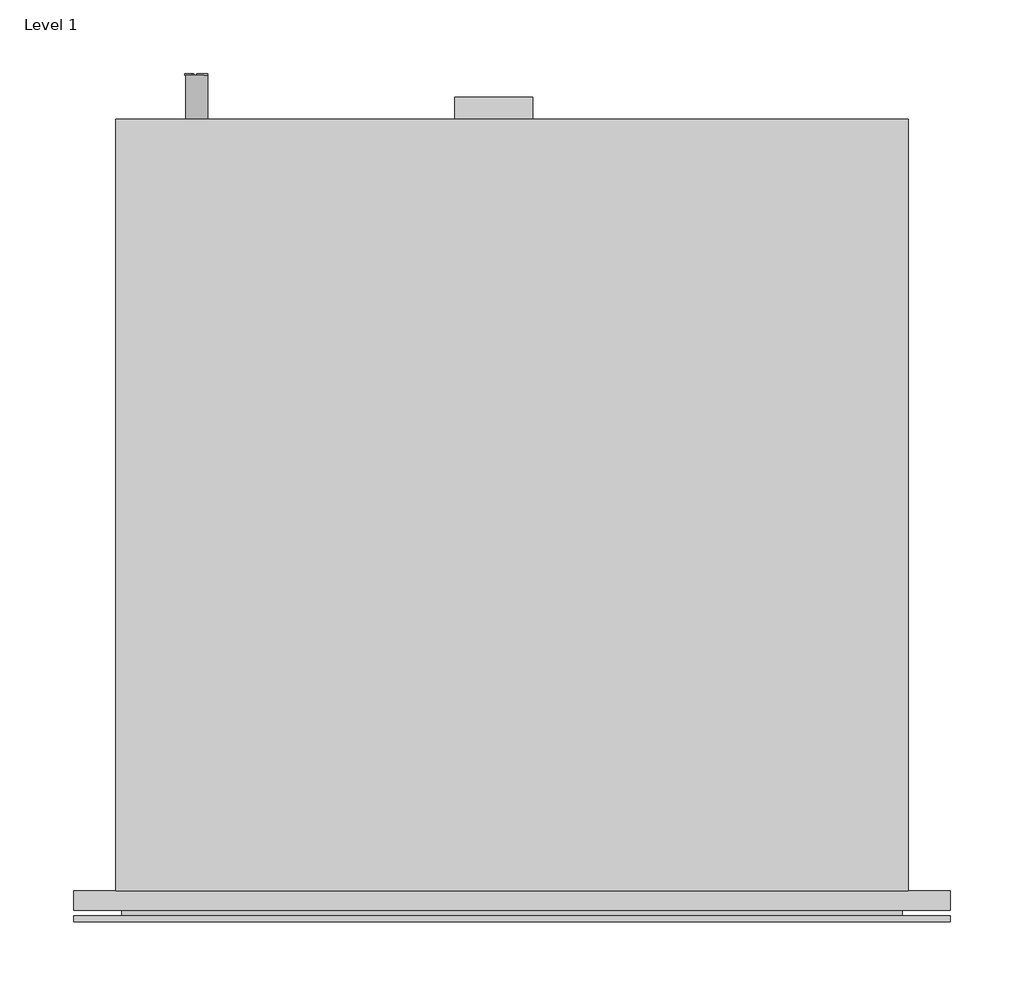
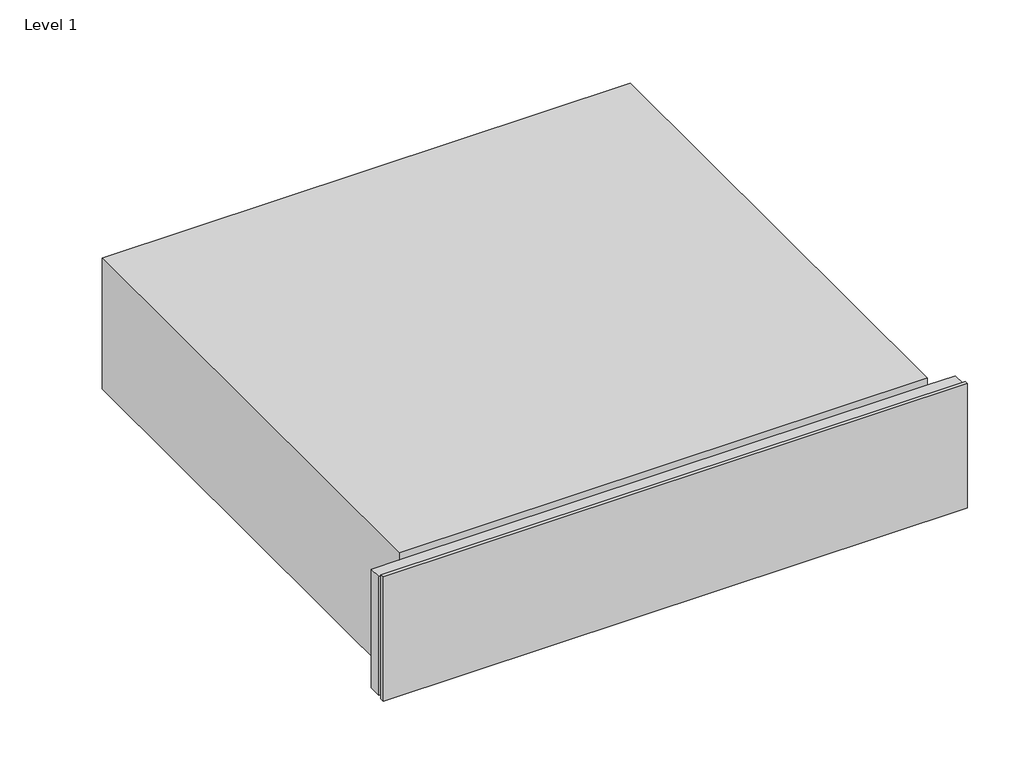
# One storey: 1 proxy.
"""IFC4 building model written with IfcOpenShell, lengths in millimetres."""

import ifcopenshell
import ifcopenshell.guid

model = None  # the IFC model being written
_history = None  # IfcOwnerHistory: only IFC2X3 demands one
_inside = {}  # id of a spatial element -> (the spatial element, [elements in it])
_under = {}  # id of a project, library or spatial element -> (it, [spatial elements below it])
_declared = {}  # id of a project -> (the project, [libraries it declares])
_typed = {}  # id of a type object -> (the type object, [elements of that type])
_made_of = {}  # id of a material, layer set ... -> (it, [elements and type objects made of it])


def new_model(schema):
    """Start an empty IFC model of exactly this schema.

    Asked for "IFC4X3", IfcOpenShell would pick the latest addendum, in which some entities
    have other attributes; the version numbers below select the first issue.
    IFC2X3 requires an IfcOwnerHistory on every rooted entity: one is made here for all.
    """
    global model, _history
    if schema == "IFC4X3":
        model = ifcopenshell.file(schema_version=(4, 3, 0, 0))
    else:
        model = ifcopenshell.file(schema=schema)
    _inside.clear()
    _under.clear()
    _declared.clear()
    _typed.clear()
    _made_of.clear()
    _history = None
    if model.schema == "IFC2X3":
        org = make("IfcOrganization", Name="unknown")
        user = make(
            "IfcPersonAndOrganization",
            ThePerson=make("IfcPerson", FamilyName="unknown"),
            TheOrganization=org,
        )
        app = make(
            "IfcApplication",
            ApplicationDeveloper=org,
            Version="unknown",
            ApplicationFullName="unknown",
            ApplicationIdentifier="unknown",
        )
        _history = make(
            "IfcOwnerHistory",
            OwningUser=user,
            OwningApplication=app,
            ChangeAction="ADDED",
            CreationDate=0,
        )
    return model


def make(cls, **values):
    """One entity of the class cls with the attributes given. An attribute that is None is left unset."""
    return model.create_entity(
        cls, **{name: value for name, value in values.items() if value is not None}
    )


def rooted(cls, **values):
    """An entity with a GlobalId (a new one), such as an element, a storey or a relation."""
    return make(cls, GlobalId=ifcopenshell.guid.new(), OwnerHistory=_history, **values)


def si_unit(unit_type, name, prefix=None):
    """IfcSIUnit, for example si_unit("LENGTHUNIT", "METRE", prefix="MILLI")."""
    return make("IfcSIUnit", UnitType=unit_type, Prefix=prefix, Name=name)


def assignment(units):
    """IfcUnitAssignment: the units of a project."""
    return None if units is None else make("IfcUnitAssignment", Units=units)


def point(xyz):
    """IfcCartesianPoint."""
    return None if xyz is None else make("IfcCartesianPoint", Coordinates=xyz)


def direction(xyz):
    """IfcDirection."""
    return None if xyz is None else make("IfcDirection", DirectionRatios=xyz)


def frame(location, z_axis=None, x_axis=None):
    """IfcAxis2Placement3D, a coordinate frame: its origin and axes. An axis left out is left unset."""
    return make(
        "IfcAxis2Placement3D",
        Location=point(location),
        Axis=direction(z_axis),
        RefDirection=direction(x_axis),
    )


def frame_2d(location, x_axis=None):
    """IfcAxis2Placement2D, a coordinate frame in the plane: its origin and x axis."""
    return make(
        "IfcAxis2Placement2D", Location=point(location), RefDirection=direction(x_axis)
    )


def origin():
    """The frame at (0, 0, 0) with its axes left unset."""
    return frame((0.0, 0.0, 0.0))


def place(relative_to, where):
    """IfcLocalPlacement: puts the frame where relative to a parent placement (None: the world)."""
    return make(
        "IfcLocalPlacement", PlacementRelTo=relative_to, RelativePlacement=where
    )


def context(
    kind, dimensions, precision=None, world=None, true_north=None, identifier=None
):
    """IfcGeometricRepresentationContext, for example the 3D "Model" context."""
    return make(
        "IfcGeometricRepresentationContext",
        ContextIdentifier=identifier,
        ContextType=kind,
        CoordinateSpaceDimension=dimensions,
        Precision=precision,
        WorldCoordinateSystem=world,
        TrueNorth=true_north,
    )


def project(units=None, contexts=None):
    """IfcProject with its units and contexts."""
    return rooted(
        "IfcProject",
        Name="project",
        RepresentationContexts=contexts,
        UnitsInContext=assignment(units),
    )


def spatial(cls, under=None, at=None, **own):
    """A site, building, storey or space (cls), placed at a placement, below another one or the project."""
    s = rooted(cls, ObjectPlacement=at, **own)
    if under is not None:
        _under.setdefault(under.id(), (under, []))[1].append(s)
    return s


def polyline(points):
    """IfcPolyline through the points."""
    return make("IfcPolyline", Points=[point(p) for p in points])


def circle_curve(where, radius):
    """IfcCircle in the frame where."""
    return make("IfcCircle", Position=where, Radius=radius)


def trimmed(basis, trim1, trim2, sense, master):
    """IfcTrimmedCurve: the piece of a basis curve between two trims."""
    return make(
        "IfcTrimmedCurve",
        BasisCurve=basis,
        Trim1=trim1,
        Trim2=trim2,
        SenseAgreement=sense,
        MasterRepresentation=master,
    )


def segment(curve, same_sense, transition):
    """IfcCompositeCurveSegment."""
    return make(
        "IfcCompositeCurveSegment",
        Transition=transition,
        SameSense=same_sense,
        ParentCurve=curve,
    )


def composite_curve(segments, self_intersect=None):
    """IfcCompositeCurve: segments joined end to end."""
    return make("IfcCompositeCurve", Segments=segments, SelfIntersect=self_intersect)


def outline(outer, holes=None, kind="AREA"):
    """IfcArbitraryClosedProfileDef: a profile drawn as a closed curve; with holes, ...WithVoids."""
    if holes is None:
        return make("IfcArbitraryClosedProfileDef", ProfileType=kind, OuterCurve=outer)
    return make(
        "IfcArbitraryProfileDefWithVoids",
        ProfileType=kind,
        OuterCurve=outer,
        InnerCurves=holes,
    )


def extrude(swept, where, along, depth):
    """IfcExtrudedAreaSolid: the profile swept, set in the frame where, extruded along a direction by depth."""
    return make(
        "IfcExtrudedAreaSolid",
        SweptArea=swept,
        Position=where,
        ExtrudedDirection=direction(along),
        Depth=depth,
    )


def faces_of(points, faces, orient=None, outer=None):
    """IfcFace entities. A face is a list of loops; a loop is a list of indices into points, from 0.

    orient and outer hold one flag for each loop. By default every Orientation is true, the
    first loop of a face is its IfcFaceOuterBound and the others are IfcFaceBound.
    """
    made = []
    for i, loops in enumerate(faces):
        bounds = []
        for j, loop in enumerate(loops):
            is_outer = j == 0 if outer is None else outer[i][j]
            bounds.append(
                make(
                    "IfcFaceOuterBound" if is_outer else "IfcFaceBound",
                    Bound=make("IfcPolyLoop", Polygon=[points[k] for k in loop]),
                    Orientation=True if orient is None else orient[i][j],
                )
            )
        made.append(make("IfcFace", Bounds=bounds))
    return made


def faceted_brep(points, faces, orient=None, outer=None, voids=None):
    """IfcFacetedBrep: a solid bounded by flat faces; with voids (closed shells), ...WithVoids."""
    shared = [point(p) for p in points]
    hull = make("IfcClosedShell", CfsFaces=faces_of(shared, faces, orient, outer))
    if voids is None:
        return make("IfcFacetedBrep", Outer=hull)
    return make(
        "IfcFacetedBrepWithVoids",
        Outer=hull,
        Voids=[
            make(cls, CfsFaces=faces_of(shared, fs, o, b)) for cls, fs, o, b in voids
        ],
    )


def shape(context_of_items, identifier, shape_type, items):
    """IfcShapeRepresentation: the items that make up one representation, for example the "Body"."""
    return make(
        "IfcShapeRepresentation",
        ContextOfItems=context_of_items,
        RepresentationIdentifier=identifier,
        RepresentationType=shape_type,
        Items=items,
    )


def source(mapping_origin, context_of_items, identifier, shape_type, items):
    """IfcRepresentationMap: a shape defined once, which mapped items show again and again."""
    return make(
        "IfcRepresentationMap",
        MappingOrigin=mapping_origin,
        MappedRepresentation=shape(context_of_items, identifier, shape_type, items),
    )


def transform(
    local_origin,
    x_axis=None,
    y_axis=None,
    z_axis=None,
    scale=None,
    scale2=None,
    scale3=None,
    uniform=True,
):
    """IfcCartesianTransformationOperator3D, or its non-uniform kind. x_axis, y_axis, z_axis: its Axis1, 2, 3."""
    if uniform:
        return make(
            "IfcCartesianTransformationOperator3D",
            Axis1=direction(x_axis),
            Axis2=direction(y_axis),
            LocalOrigin=point(local_origin),
            Scale=scale,
            Axis3=direction(z_axis),
        )
    return make(
        "IfcCartesianTransformationOperator3DnonUniform",
        Axis1=direction(x_axis),
        Axis2=direction(y_axis),
        LocalOrigin=point(local_origin),
        Scale=scale,
        Axis3=direction(z_axis),
        Scale2=scale2,
        Scale3=scale3,
    )


def mapped(mapping_source, mapping_target):
    """IfcMappedItem: shows the shape of a source again, moved by a transform."""
    return make(
        "IfcMappedItem", MappingSource=mapping_source, MappingTarget=mapping_target
    )


def made_of(thing, what):
    """Note that an element or type object is made of a material, layer set ...; save() writes the relation."""
    if what is not None:
        _made_of.setdefault(what.id(), (what, []))[1].append(thing)
    return thing


def element(
    cls,
    number,
    at=None,
    inside=None,
    cuts=None,
    type_object=None,
    material=None,
    context=None,
    identifier="Body",
    shape_type=None,
    held_by="IfcProductDefinitionShape",
    body=None,
    shapes=None,
    **own,
):
    """One element of the class cls, such as IfcWall. Its Tag is "e" and its number.

    at: its placement. inside: the storey or other place that contains it. cuts: it is an
    opening in that element (IfcRelVoidsElement). A single representation is given by context,
    identifier, shape_type and body (its items); several are given by shapes. held_by: the class
    of the entity that holds the representations. save() writes the other relations.
    """
    e = rooted(cls, Tag="e%d" % number, ObjectPlacement=at, **own)
    if body is not None:
        shapes = [shape(context, identifier, shape_type, body)]
    if shapes is not None:
        e.Representation = make(held_by, Representations=shapes)
    if inside is not None:
        _inside.setdefault(inside.id(), (inside, []))[1].append(e)
    if cuts is not None:
        rooted(
            "IfcRelVoidsElement", RelatingBuildingElement=cuts, RelatedOpeningElement=e
        )
    if type_object is not None:
        _typed.setdefault(type_object.id(), (type_object, []))[1].append(e)
    return made_of(e, material)


def aggregate(whole, parts):
    """IfcRelAggregates: a whole, such as a stair, and the parts it consists of."""
    return rooted("IfcRelAggregates", RelatingObject=whole, RelatedObjects=parts)


def save(model, path):
    """Write the relations noted so far, then the file.

    IfcRelAggregates (storeys below a building ...), IfcRelContainedInSpatialStructure (elements
    in a storey), IfcRelDefinesByType, IfcRelAssociatesMaterial and IfcRelDeclares: one each for
    every whole, place, type object, material and project.
    """
    for whole, parts in _under.values():
        aggregate(whole, parts)
    for where, things in _inside.values():
        rooted(
            "IfcRelContainedInSpatialStructure",
            RelatedElements=things,
            RelatingStructure=where,
        )
    for kind, things in _typed.values():
        rooted("IfcRelDefinesByType", RelatedObjects=things, RelatingType=kind)
    for what, things in _made_of.values():
        rooted("IfcRelAssociatesMaterial", RelatedObjects=things, RelatingMaterial=what)
    for by, libraries in _declared.values():
        rooted("IfcRelDeclares", RelatingContext=by, RelatedDefinitions=libraries)
    model.write(path)


def specialty_equipment_d28e223f(model_context):
    return source(origin(), model_context, "Body", "SolidModel", [
        extrude(outline(polyline([(-297.5, -17.0), (297.5, -17.0), (297.5, -21.0), (-297.5, -21.0), (-297.5, -17.0)])), frame((0.0, 0.0, 4.0), z_axis=(0.0, 0.0, 1.0), x_axis=(1.0, 0.0, 0.0)), (0.0, 0.0, 1.0), 134.0),
        extrude(outline(polyline([(-13.0, 10.0), (-13.0, 126.0), (19.0, 126.0), (19.0, 85.0), (4.0, 85.0), (4.0, 10.0), (-13.0, 10.0)])), frame((-261.0, 0.0, 0.0), z_axis=(1.0, 0.0, 0.0), x_axis=(0.0, 1.0, 0.0)), (0.0, 0.0, 1.0), 522.0),
        extrude(outline(polyline([(-265.0, -13.0), (265.0, -13.0), (265.0, -17.0), (-265.0, -17.0), (-265.0, -13.0)])), frame((0.0, 0.0, 6.0), z_axis=(0.0, 0.0, 1.0), x_axis=(1.0, 0.0, 0.0)), (0.0, 0.0, 1.0), 125.0),
        extrude(outline(polyline([(24.045335, -206.6203116), (24.045335, -213.8439827), (22.7898265, -213.8439827), (22.7898265, -207.876825), (19.8076572, -207.876825), (19.8076572, -213.5281281), (18.5519876, -213.5281281), (18.5519876, -207.876825), (15.2564531, -207.876825), (15.2564531, -213.8439827), (14.0, -213.8439827), (14.0, -206.6203116), (24.045335, -206.6203116)])), frame((0.0, 554.0, 0.0), z_axis=(0.0, 1.0, 0.0), x_axis=(0.0, 0.0, 1.0)), (0.0, 0.0, 1.0), 1.0),
        extrude(outline(polyline([(24.0461611, -217.1431874), (15.255243, -217.1431874), (15.255243, -222.1617362), (13.9997538, -222.1617362), (13.9997538, -217.1431874), (13.9997538, -215.8823011), (24.0461611, -215.8823011), (24.0461611, -217.1431874)])), frame((0.0, 554.0, 0.0), z_axis=(0.0, 1.0, 0.0), x_axis=(0.0, 0.0, 1.0)), (0.0, 0.0, 1.0), 1.0),
        extrude(outline(composite_curve([segment(trimmed(circle_curve(frame_2d((19.0, -214.0)), 7.5), [point((19.0, -206.5))], [point((19.0, -221.5))], False, "CARTESIAN"), True, "CONTINUOUS"), segment(trimmed(circle_curve(frame_2d((19.0, -214.0)), 7.5), [point((19.0, -221.5))], [point((19.0, -206.5))], False, "CARTESIAN"), True, "CONTINUOUS")], self_intersect=False)), frame((0.0, 524.0, 0.0), z_axis=(0.0, 1.0, 0.0), x_axis=(0.0, 0.0, 1.0)), (0.0, 0.0, 1.0), 30.0),
        faceted_brep([(269.0, 524.0, 141.0), (269.0, 524.0, 0.0), (-269.0, 524.0, 0.0), (-269.0, 524.0, 141.0), (269.0, 0.0, 141.0), (269.0, 0.0, 133.5), (269.0, 0.0, 5.5), (269.0, 0.0, 0.0), (-269.0, 0.0, 0.0), (-269.0, 0.0, 5.5), (-269.0, 0.0, 133.5), (-269.0, 0.0, 141.0), (-297.5, 0.0, 133.5), (-297.5, -13.0, 133.5), (297.5, -13.0, 133.5), (297.5, 0.0, 133.5), (-267.0, 0.0, 5.5), (-267.0, -13.0, 5.5), (-297.5, -13.0, 5.5), (-297.5, 0.0, 5.5), (267.0, 0.0, 5.5), (297.5, 0.0, 5.5), (297.5, -13.0, 5.5), (267.0, -13.0, 5.5), (-267.0, -13.0, 131.0), (267.0, -13.0, 131.0), (267.0, 522.0, 131.0), (-267.0, 522.0, 131.0), (-267.0, 522.0, 6.0), (267.0, 522.0, 6.0), (-267.0, 0.0, 6.0), (267.0, 0.0, 6.0)], [[[0, 1, 2, 3]], [[1, 0, 4, 5, 6, 7]], [[3, 2, 8, 9, 10, 11]], [[5, 10, 12, 13, 14, 15]], [[10, 5, 4, 11]], [[9, 16, 17, 18, 19]], [[20, 6, 21, 22, 23]], [[12, 10, 9, 19]], [[5, 15, 21, 6]], [[14, 13, 18, 17, 24, 25, 23, 22]], [[15, 14, 22, 21]], [[13, 12, 19, 18]], [[26, 27, 28, 29]], [[29, 28, 30, 31]], [[27, 26, 25, 24]], [[30, 16, 9, 8, 7, 6, 20, 31]], [[2, 1, 7, 8]], [[0, 3, 11, 4]], [[17, 16, 30, 28, 27, 24]], [[25, 26, 29, 31, 20, 23]]]),
        extrude(outline(polyline([(-39.0, 539.0), (14.0, 539.0), (14.0, 524.0), (-39.0, 524.0), (-39.0, 539.0)])), frame((0.0, 0.0, 4.0), z_axis=(0.0, 0.0, 1.0), x_axis=(1.0, 0.0, 0.0)), (0.0, 0.0, 1.0), 29.0),
    ])


model = new_model("IFC4")

# Units and contexts
model_context = context("Model", 3, world=origin())
ifc_project = project(units=[si_unit("LENGTHUNIT", "METRE", prefix="MILLI")], contexts=[model_context])

# Site, building, storey
site = spatial("IfcSite", under=ifc_project)
building = spatial("IfcBuilding", under=site)
storey = spatial("IfcBuildingStorey", under=building, Name="Level 1", Elevation=0.0)

# Proxy
placement = place(None, origin())
specialty_equipment_shape = specialty_equipment_d28e223f(model_context)
element("IfcBuildingElementProxy", 1, Name="11103110_D_ESW7010_GRGR : 30701030_D_11103110_ESW7010_GRGR", ObjectType="11103110_D_ESW7010_GRGR : 30701030_D_11103110_ESW7010_GRGR", at=placement, inside=storey, context=model_context, shape_type="MappedRepresentation", body=[
    mapped(specialty_equipment_shape, transform((0.0, 0.0, 0.0), x_axis=(1.0, 0.0, 0.0), y_axis=(0.0, 1.0, 0.0), z_axis=(0.0, 0.0, 1.0))),
])

save(model, "model.ifc")
